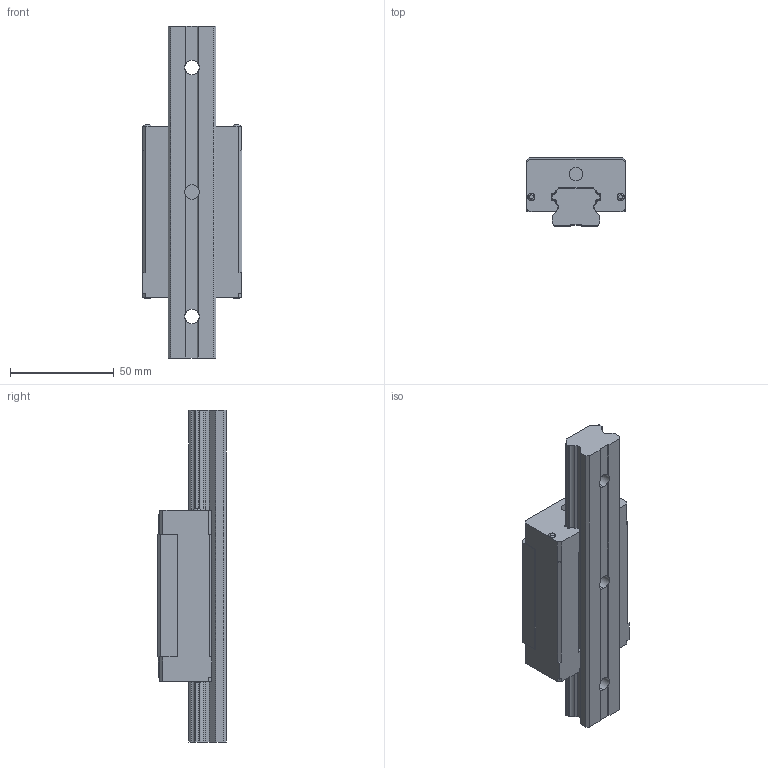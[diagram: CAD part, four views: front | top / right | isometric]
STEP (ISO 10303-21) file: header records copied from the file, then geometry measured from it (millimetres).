
FILE_DESCRIPTION (( 'STEP AP214' ), '1' );
FILE_NAME ('7.1070 Lineaarikelkka ETH25CA.STEP', '2026-03-13T08:39:07', ( '' ), ( '' ), 'SwSTEP 2.0', 'SolidWorks 2025', '' );
FILE_SCHEMA (( 'AUTOMOTIVE_DESIGN' ));
Length unit declared in the file: millimetre
Products named in the file (3): 7.1070 Lineaarikelkka ETH25CA; ET25_RAIL; ETH25CA_BLOCK
Assembly tree (2 placements, depth 2):
  7.1070 Lineaarikelkka ETH25CA
    ET25_RAIL
    ETH25CA_BLOCK
Bounding box: 48 x 33 x 160 mm (x, y, z)
Volume: 127365.9 mm3; surface area: 33466.9 mm2
Topology: 2 solids, 2 shells, 290 faces, 812 edges, 544 vertices
Faces by surface type: plane 194, cylinder 64, bspline 25, torus 7
Entity records: 14571 total; most frequent: CARTESIAN_POINT 3852, ORIENTED_EDGE 1620, DIRECTION 1439, EDGE_CURVE 810, LINE 583, VECTOR 583, VERTEX_POINT 544, AXIS2_PLACEMENT_3D 428
